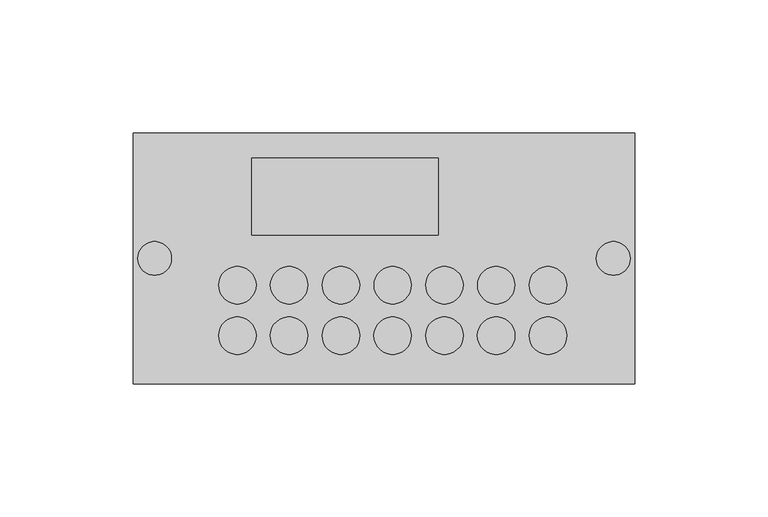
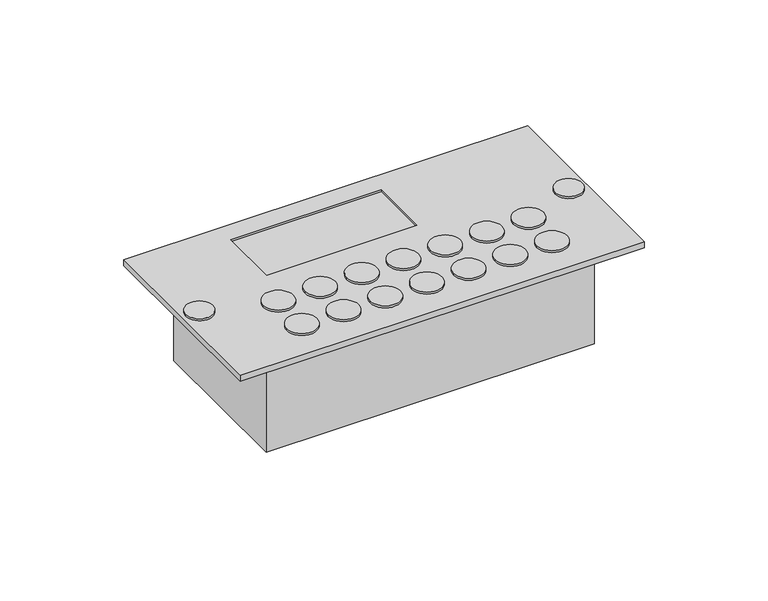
"""IFC4 building model written with IfcOpenShell, lengths in millimetres: proxy geometry, Панель_Управления_LOGITURN_R18 : Панель_Управления_LOGITURN_R18."""

from ifc_helpers import new_model, si_unit, point, frame, frame_2d, origin, place, context, project, spatial, polyline, circle_curve, trimmed, segment, composite_curve, outline, extrude, faceted_brep, source, transform, mapped, element, save


def mechanical_equipment_7de76323(model_context):
    return source(origin(), model_context, "Body", "SolidModel", [
        extrude(outline(polyline([(76.3088743, 37.3088743), (76.3088743, -37.3088743), (-76.3088743, -37.3088743), (-76.3088743, 37.3088743), (76.3088743, 37.3088743)])), frame((0.0, 0.0, -47.0), z_axis=(0.0, 0.0, 1.0), x_axis=(1.0, 0.0, 0.0)), (0.0, 0.0, 1.0), 47.0),
        extrude(outline(composite_curve([segment(trimmed(circle_curve(frame_2d((86.0, 0.0)), 6.3287231), [point((79.6712769, 0.0))], [point((92.3287231, 0.0))], False, "CARTESIAN"), True, "CONTINUOUS"), segment(trimmed(circle_curve(frame_2d((86.0, 0.0)), 6.3287231), [point((92.3287231, 0.0))], [point((79.6712769, 0.0))], False, "CARTESIAN"), True, "CONTINUOUS")], self_intersect=False)), frame((0.0, 0.0, 3.0), z_axis=(0.0, 0.0, 1.0), x_axis=(1.0, 0.0, 0.0)), (0.0, 0.0, 1.0), 1.0),
        extrude(outline(composite_curve([segment(trimmed(circle_curve(frame_2d((-86.0, 0.0)), 6.3), [point((-92.3, 0.0))], [point((-79.7, 0.0))], False, "CARTESIAN"), True, "CONTINUOUS"), segment(trimmed(circle_curve(frame_2d((-86.0, 0.0)), 6.3), [point((-79.7, 0.0))], [point((-92.3, 0.0))], False, "CARTESIAN"), True, "CONTINUOUS")], self_intersect=False)), frame((0.0, 0.0, 3.0), z_axis=(0.0, 0.0, 1.0), x_axis=(1.0, 0.0, 0.0)), (0.0, 0.0, 1.0), 1.0),
        extrude(outline(composite_curve([segment(trimmed(circle_curve(frame_2d((42.0833333, -10.0490249)), 7.0), [point((35.0833333, -10.0490249))], [point((49.0833333, -10.0490249))], False, "CARTESIAN"), True, "CONTINUOUS"), segment(trimmed(circle_curve(frame_2d((42.0833333, -10.0490249)), 7.0), [point((49.0833333, -10.0490249))], [point((35.0833333, -10.0490249))], False, "CARTESIAN"), True, "CONTINUOUS")], self_intersect=False)), frame((0.0, 0.0, 3.0), z_axis=(0.0, 0.0, 1.0), x_axis=(1.0, 0.0, 0.0)), (0.0, 0.0, 1.0), 1.0),
        extrude(outline(composite_curve([segment(trimmed(circle_curve(frame_2d((42.0833333, -29.0)), 7.0277857), [point((35.0555476, -29.0))], [point((49.1111191, -29.0))], False, "CARTESIAN"), True, "CONTINUOUS"), segment(trimmed(circle_curve(frame_2d((42.0833333, -29.0)), 7.0277857), [point((49.1111191, -29.0))], [point((35.0555476, -29.0))], False, "CARTESIAN"), True, "CONTINUOUS")], self_intersect=False)), frame((0.0, 0.0, 3.0), z_axis=(0.0, 0.0, 1.0), x_axis=(1.0, 0.0, 0.0)), (0.0, 0.0, 1.0), 1.0),
        extrude(outline(composite_curve([segment(trimmed(circle_curve(frame_2d((22.6666667, -10.0490249)), 7.0), [point((15.6666667, -10.0490249))], [point((29.6666667, -10.0490249))], False, "CARTESIAN"), True, "CONTINUOUS"), segment(trimmed(circle_curve(frame_2d((22.6666667, -10.0490249)), 7.0), [point((29.6666667, -10.0490249))], [point((15.6666667, -10.0490249))], False, "CARTESIAN"), True, "CONTINUOUS")], self_intersect=False)), frame((0.0, 0.0, 3.0), z_axis=(0.0, 0.0, 1.0), x_axis=(1.0, 0.0, 0.0)), (0.0, 0.0, 1.0), 1.0),
        extrude(outline(composite_curve([segment(trimmed(circle_curve(frame_2d((22.6666667, -29.0)), 7.0277857), [point((15.6388809, -29.0))], [point((29.6944524, -29.0))], False, "CARTESIAN"), True, "CONTINUOUS"), segment(trimmed(circle_curve(frame_2d((22.6666667, -29.0)), 7.0277857), [point((29.6944524, -29.0))], [point((15.6388809, -29.0))], False, "CARTESIAN"), True, "CONTINUOUS")], self_intersect=False)), frame((0.0, 0.0, 3.0), z_axis=(0.0, 0.0, 1.0), x_axis=(1.0, 0.0, 0.0)), (0.0, 0.0, 1.0), 1.0),
        extrude(outline(composite_curve([segment(trimmed(circle_curve(frame_2d((3.25, -10.0490249)), 7.0), [point((-3.75, -10.0490249))], [point((10.25, -10.0490249))], False, "CARTESIAN"), True, "CONTINUOUS"), segment(trimmed(circle_curve(frame_2d((3.25, -10.0490249)), 7.0), [point((10.25, -10.0490249))], [point((-3.75, -10.0490249))], False, "CARTESIAN"), True, "CONTINUOUS")], self_intersect=False)), frame((0.0, 0.0, 3.0), z_axis=(0.0, 0.0, 1.0), x_axis=(1.0, 0.0, 0.0)), (0.0, 0.0, 1.0), 1.0),
        extrude(outline(composite_curve([segment(trimmed(circle_curve(frame_2d((3.25, -29.0)), 7.0277857), [point((-3.7777857, -29.0))], [point((10.2777857, -29.0))], False, "CARTESIAN"), True, "CONTINUOUS"), segment(trimmed(circle_curve(frame_2d((3.25, -29.0)), 7.0277857), [point((10.2777857, -29.0))], [point((-3.7777857, -29.0))], False, "CARTESIAN"), True, "CONTINUOUS")], self_intersect=False)), frame((0.0, 0.0, 3.0), z_axis=(0.0, 0.0, 1.0), x_axis=(1.0, 0.0, 0.0)), (0.0, 0.0, 1.0), 1.0),
        extrude(outline(composite_curve([segment(trimmed(circle_curve(frame_2d((-16.1666667, -10.0490249)), 7.0), [point((-23.1666667, -10.0490249))], [point((-9.1666667, -10.0490249))], False, "CARTESIAN"), True, "CONTINUOUS"), segment(trimmed(circle_curve(frame_2d((-16.1666667, -10.0490249)), 7.0), [point((-9.1666667, -10.0490249))], [point((-23.1666667, -10.0490249))], False, "CARTESIAN"), True, "CONTINUOUS")], self_intersect=False)), frame((0.0, 0.0, 3.0), z_axis=(0.0, 0.0, 1.0), x_axis=(1.0, 0.0, 0.0)), (0.0, 0.0, 1.0), 1.0),
        extrude(outline(composite_curve([segment(trimmed(circle_curve(frame_2d((-16.1666667, -29.0)), 7.0277857), [point((-23.1944524, -29.0))], [point((-9.1388809, -29.0))], False, "CARTESIAN"), True, "CONTINUOUS"), segment(trimmed(circle_curve(frame_2d((-16.1666667, -29.0)), 7.0277857), [point((-9.1388809, -29.0))], [point((-23.1944524, -29.0))], False, "CARTESIAN"), True, "CONTINUOUS")], self_intersect=False)), frame((0.0, 0.0, 3.0), z_axis=(0.0, 0.0, 1.0), x_axis=(1.0, 0.0, 0.0)), (0.0, 0.0, 1.0), 1.0),
        extrude(outline(composite_curve([segment(trimmed(circle_curve(frame_2d((-35.5833333, -10.0490249)), 7.0), [point((-42.5833333, -10.0490249))], [point((-28.5833333, -10.0490249))], False, "CARTESIAN"), True, "CONTINUOUS"), segment(trimmed(circle_curve(frame_2d((-35.5833333, -10.0490249)), 7.0), [point((-28.5833333, -10.0490249))], [point((-42.5833333, -10.0490249))], False, "CARTESIAN"), True, "CONTINUOUS")], self_intersect=False)), frame((0.0, 0.0, 3.0), z_axis=(0.0, 0.0, 1.0), x_axis=(1.0, 0.0, 0.0)), (0.0, 0.0, 1.0), 1.0),
        extrude(outline(composite_curve([segment(trimmed(circle_curve(frame_2d((-35.5833333, -29.0)), 7.0277857), [point((-42.6111191, -29.0))], [point((-28.5555476, -29.0))], False, "CARTESIAN"), True, "CONTINUOUS"), segment(trimmed(circle_curve(frame_2d((-35.5833333, -29.0)), 7.0277857), [point((-28.5555476, -29.0))], [point((-42.6111191, -29.0))], False, "CARTESIAN"), True, "CONTINUOUS")], self_intersect=False)), frame((0.0, 0.0, 3.0), z_axis=(0.0, 0.0, 1.0), x_axis=(1.0, 0.0, 0.0)), (0.0, 0.0, 1.0), 1.0),
        extrude(outline(composite_curve([segment(trimmed(circle_curve(frame_2d((61.5, -10.0490249)), 7.0), [point((54.5, -10.0490249))], [point((68.5, -10.0490249))], False, "CARTESIAN"), True, "CONTINUOUS"), segment(trimmed(circle_curve(frame_2d((61.5, -10.0490249)), 7.0), [point((68.5, -10.0490249))], [point((54.5, -10.0490249))], False, "CARTESIAN"), True, "CONTINUOUS")], self_intersect=False)), frame((0.0, 0.0, 3.0), z_axis=(0.0, 0.0, 1.0), x_axis=(1.0, 0.0, 0.0)), (0.0, 0.0, 1.0), 1.0),
        extrude(outline(composite_curve([segment(trimmed(circle_curve(frame_2d((61.5, -29.0)), 7.0277857), [point((54.4722143, -29.0))], [point((68.5277857, -29.0))], False, "CARTESIAN"), True, "CONTINUOUS"), segment(trimmed(circle_curve(frame_2d((61.5, -29.0)), 7.0277857), [point((68.5277857, -29.0))], [point((54.4722143, -29.0))], False, "CARTESIAN"), True, "CONTINUOUS")], self_intersect=False)), frame((0.0, 0.0, 3.0), z_axis=(0.0, 0.0, 1.0), x_axis=(1.0, 0.0, 0.0)), (0.0, 0.0, 1.0), 1.0),
        extrude(outline(composite_curve([segment(trimmed(circle_curve(frame_2d((-55.0, -10.0490249)), 7.0), [point((-62.0, -10.0490249))], [point((-48.0, -10.0490249))], False, "CARTESIAN"), True, "CONTINUOUS"), segment(trimmed(circle_curve(frame_2d((-55.0, -10.0490249)), 7.0), [point((-48.0, -10.0490249))], [point((-62.0, -10.0490249))], False, "CARTESIAN"), True, "CONTINUOUS")], self_intersect=False)), frame((0.0, 0.0, 3.0), z_axis=(0.0, 0.0, 1.0), x_axis=(1.0, 0.0, 0.0)), (0.0, 0.0, 1.0), 1.0),
        extrude(outline(composite_curve([segment(trimmed(circle_curve(frame_2d((-55.0, -29.0)), 7.0277857), [point((-62.0277857, -29.0))], [point((-47.9722143, -29.0))], False, "CARTESIAN"), True, "CONTINUOUS"), segment(trimmed(circle_curve(frame_2d((-55.0, -29.0)), 7.0277857), [point((-47.9722143, -29.0))], [point((-62.0277857, -29.0))], False, "CARTESIAN"), True, "CONTINUOUS")], self_intersect=False)), frame((0.0, 0.0, 3.0), z_axis=(0.0, 0.0, 1.0), x_axis=(1.0, 0.0, 0.0)), (0.0, 0.0, 1.0), 1.0),
        faceted_brep([(94.0, 47.0, 3.0), (-94.0, 47.0, 3.0), (-94.0, -47.0, 3.0), (94.0, -47.0, 3.0), (-49.6230681, 37.6911257, 3.0), (20.3769319, 37.6911257, 3.0), (20.3769319, 8.8214558, 3.0), (-49.6230681, 8.8214558, 3.0), (94.0, 47.0, 0.0), (94.0, -47.0, 0.0), (-94.0, -47.0, 0.0), (-94.0, 47.0, 0.0), (20.3769319, 37.6911257, 2.0), (-49.6230681, 37.6911257, 2.0), (-49.6230681, 8.8214558, 2.0), (20.3769319, 8.8214558, 2.0)], [[[0, 1, 2, 3], [4, 5, 6, 7]], [[8, 9, 10, 11]], [[1, 0, 8, 11]], [[2, 1, 11, 10]], [[3, 2, 10, 9]], [[0, 3, 9, 8]], [[12, 13, 14, 15]], [[13, 12, 5, 4]], [[14, 13, 4, 7]], [[15, 14, 7, 6]], [[12, 15, 6, 5]]]),
    ])


if __name__ == "__main__":
    model = new_model("IFC4")
    model_context = context("Model", 3, world=origin())
    ifc_project = project(units=[si_unit("LENGTHUNIT", "METRE", prefix="MILLI")], contexts=[model_context])
    site = spatial("IfcSite", under=ifc_project)
    building = spatial("IfcBuilding", under=site)
    placement = place(None, origin())
    mechanical_equipment_shape = mechanical_equipment_7de76323(model_context)
    element("IfcBuildingElementProxy", 1, Name="Панель_Управления_LOGITURN_R18 : Панель_Управления_LOGITURN_R18", ObjectType="Панель_Управления_LOGITURN_R18 : Панель_Управления_LOGITURN_R18", at=placement, inside=building, context=model_context, shape_type="MappedRepresentation", body=[
        mapped(mechanical_equipment_shape, transform((0.0, 0.0, 0.0), x_axis=(1.0, 0.0, 0.0), y_axis=(0.0, 1.0, 0.0), z_axis=(0.0, 0.0, 1.0))),
    ])
    save(model, "model.ifc")
